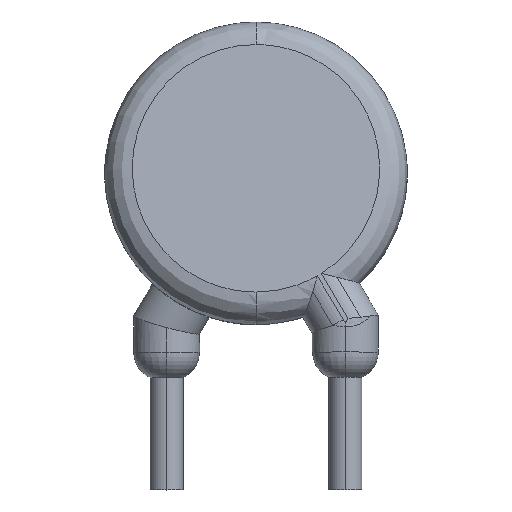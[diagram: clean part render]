
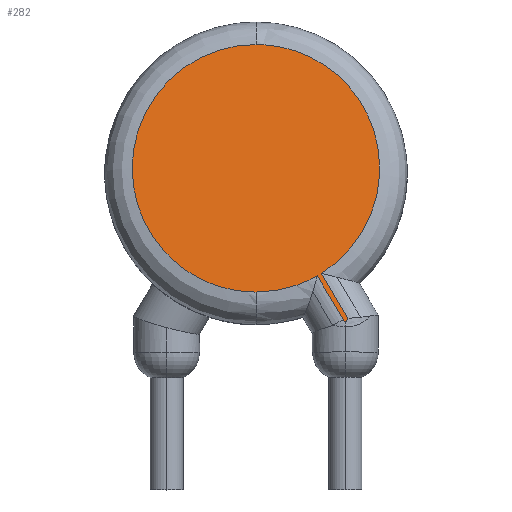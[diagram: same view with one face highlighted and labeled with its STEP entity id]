
A CAD part, top view. The second image highlights one B-rep face of the part: STEP entity #282.
In plain terms, the highlighted planar face has unit normal (0, 0.179, 0.984).
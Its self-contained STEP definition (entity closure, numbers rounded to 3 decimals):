
#51 = VERTEX_POINT ( 'NONE', #441 ) ;
#54 = EDGE_CURVE ( 'NONE', #51, #63, #499, .T. ) ;
#63 = VERTEX_POINT ( 'NONE', #450 ) ;
#162 = ORIENTED_EDGE ( 'NONE', *, *, #163, .T. ) ;
#163 = EDGE_CURVE ( 'NONE', #232, #2186, #806, .T. ) ;
#195 = ORIENTED_EDGE ( 'NONE', *, *, #54, .T. ) ;
#196 = EDGE_CURVE ( 'NONE', #63, #232, #804, .T. ) ;
#223 = EDGE_LOOP ( 'NONE', ( #250, #195, #300, #162, #261, #262, #263 ) ) ;
#232 = VERTEX_POINT ( 'NONE', #1005 ) ;
#250 = ORIENTED_EDGE ( 'NONE', *, *, #301, .T. ) ;
#251 = VERTEX_POINT ( 'NONE', #1003 ) ;
#261 = ORIENTED_EDGE ( 'NONE', *, *, #2191, .T. ) ;
#262 = ORIENTED_EDGE ( 'NONE', *, *, #2109, .T. ) ;
#263 = ORIENTED_EDGE ( 'NONE', *, *, #287, .T. ) ;
#282 = ADVANCED_FACE ( 'NONE', ( #1260 ), #1342, .F. ) ;
#287 = EDGE_CURVE ( 'NONE', #2110, #251, #1277, .T. ) ;
#300 = ORIENTED_EDGE ( 'NONE', *, *, #196, .T. ) ;
#301 = EDGE_CURVE ( 'NONE', #251, #51, #1344, .T. ) ;
#441 = CARTESIAN_POINT ( 'NONE',  ( 1.625, 1.044, 2.492 ) ) ;
#450 = CARTESIAN_POINT ( 'NONE',  ( 1.672, 1.11, 2.48 ) ) ;
#495 = CARTESIAN_POINT ( 'NONE',  ( 1.672, 1.11, 2.48 ) ) ;
#496 = CARTESIAN_POINT ( 'NONE',  ( 1.657, 1.067, 2.488 ) ) ;
#497 = CARTESIAN_POINT ( 'NONE',  ( 1.641, 1.044, 2.492 ) ) ;
#498 = CARTESIAN_POINT ( 'NONE',  ( 1.625, 1.044, 2.492 ) ) ;
#499 =( BOUNDED_CURVE ( )  B_SPLINE_CURVE ( 3, ( #498, #497, #496, #495 ),
 .UNSPECIFIED., .F., .T. ) 
 B_SPLINE_CURVE_WITH_KNOTS ( ( 4, 4 ),
 ( 0., 0.492 ),
 .UNSPECIFIED. ) 
 CURVE ( )  GEOMETRIC_REPRESENTATION_ITEM ( )  RATIONAL_B_SPLINE_CURVE ( ( 1., 0.98, 0.98, 1. ) ) 
 REPRESENTATION_ITEM ( '' )  );
#733 = CARTESIAN_POINT ( 'NONE',  ( 0., 6.089, 1.575 ) ) ;
#734 = CARTESIAN_POINT ( 'NONE',  ( 2.793, 6.089, 1.575 ) ) ;
#735 = CARTESIAN_POINT ( 'NONE',  ( 3.56, 3.404, 2.063 ) ) ;
#801 = DIRECTION ( 'NONE',  ( -0.503, 0.851, -0.155 ) ) ;
#802 = VECTOR ( 'NONE', #801, 1000. ) ;
#803 = CARTESIAN_POINT ( 'NONE',  ( 1.479, 1.436, 2.421 ) ) ;
#804 = LINE ( 'NONE', #803, #802 ) ;
#806 =( BOUNDED_CURVE ( )  B_SPLINE_CURVE ( 3, ( #815, #735, #734, #733 ),
 .UNSPECIFIED., .F., .T. ) 
 B_SPLINE_CURVE_WITH_KNOTS ( ( 4, 4 ),
 ( 3.698, 6.283 ),
 .UNSPECIFIED. ) 
 CURVE ( )  GEOMETRIC_REPRESENTATION_ITEM ( )  RATIONAL_B_SPLINE_CURVE ( ( 1., 0.516, 0.516, 1. ) ) 
 REPRESENTATION_ITEM ( '' )  );
#815 = CARTESIAN_POINT ( 'NONE',  ( 1.188, 1.929, 2.331 ) ) ;
#1003 = CARTESIAN_POINT ( 'NONE',  ( 1.586, 1.087, 2.484 ) ) ;
#1005 = CARTESIAN_POINT ( 'NONE',  ( 1.188, 1.929, 2.331 ) ) ;
#1260 = FACE_OUTER_BOUND ( 'NONE', #223, .T. ) ;
#1264 = CARTESIAN_POINT ( 'NONE',  ( 1.625, 1.044, 2.492 ) ) ;
#1265 = CARTESIAN_POINT ( 'NONE',  ( 1.612, 1.044, 2.492 ) ) ;
#1266 = CARTESIAN_POINT ( 'NONE',  ( 1.599, 1.059, 2.489 ) ) ;
#1267 = CARTESIAN_POINT ( 'NONE',  ( 1.586, 1.087, 2.484 ) ) ;
#1277 = LINE ( 'NONE', #1325, #1324 ) ;
#1299 = DIRECTION ( 'NONE',  ( 0., 0.984, -0.179 ) ) ;
#1321 = CARTESIAN_POINT ( 'NONE',  ( -2.75, 6.5, 1.5 ) ) ;
#1322 = AXIS2_PLACEMENT_3D ( 'NONE', #1321, #1341, #1299 ) ;
#1324 = VECTOR ( 'NONE', #1327, 1000. ) ;
#1325 = CARTESIAN_POINT ( 'NONE',  ( 1.602, 1.06, 2.489 ) ) ;
#1327 = DIRECTION ( 'NONE',  ( 0.503, -0.851, 0.155 ) ) ;
#1341 = DIRECTION ( 'NONE',  ( 0., -0.179, -0.984 ) ) ;
#1342 = PLANE ( 'NONE',  #1322 ) ;
#1344 =( BOUNDED_CURVE ( )  B_SPLINE_CURVE ( 3, ( #1267, #1266, #1265, #1264 ),
 .UNSPECIFIED., .F., .T. ) 
 B_SPLINE_CURVE_WITH_KNOTS ( ( 4, 4 ),
 ( 5.888, 6.283 ),
 .UNSPECIFIED. ) 
 CURVE ( )  GEOMETRIC_REPRESENTATION_ITEM ( )  RATIONAL_B_SPLINE_CURVE ( ( 1., 0.987, 0.987, 1. ) ) 
 REPRESENTATION_ITEM ( '' )  );
#1377 = CARTESIAN_POINT ( 'NONE',  ( 1.115, 1.885, 2.339 ) ) ;
#1393 = CARTESIAN_POINT ( 'NONE',  ( 0., 1.589, 2.393 ) ) ;
#1400 = CARTESIAN_POINT ( 'NONE',  ( 0.393, 1.589, 2.393 ) ) ;
#1401 = CARTESIAN_POINT ( 'NONE',  ( 0., 1.589, 2.393 ) ) ;
#1406 = CARTESIAN_POINT ( 'NONE',  ( 1.115, 1.885, 2.339 ) ) ;
#1407 = CARTESIAN_POINT ( 'NONE',  ( 0.773, 1.69, 2.375 ) ) ;
#1411 =( BOUNDED_CURVE ( )  B_SPLINE_CURVE ( 3, ( #1401, #1400, #1407, #1406 ),
 .UNSPECIFIED., .F., .T. ) 
 B_SPLINE_CURVE_WITH_KNOTS ( ( 4, 4 ),
 ( 3.142, 3.66 ),
 .UNSPECIFIED. ) 
 CURVE ( )  GEOMETRIC_REPRESENTATION_ITEM ( )  RATIONAL_B_SPLINE_CURVE ( ( 1., 0.978, 0.978, 1. ) ) 
 REPRESENTATION_ITEM ( '' )  );
#1924 = CARTESIAN_POINT ( 'NONE',  ( 0., 6.089, 1.575 ) ) ;
#1989 = CARTESIAN_POINT ( 'NONE',  ( 0., 1.589, 2.393 ) ) ;
#1990 = CARTESIAN_POINT ( 'NONE',  ( -4.5, 1.589, 2.393 ) ) ;
#1991 = CARTESIAN_POINT ( 'NONE',  ( -4.5, 6.089, 1.575 ) ) ;
#1992 = CARTESIAN_POINT ( 'NONE',  ( 0., 6.089, 1.575 ) ) ;
#2013 =( BOUNDED_CURVE ( )  B_SPLINE_CURVE ( 3, ( #1992, #1991, #1990, #1989 ),
 .UNSPECIFIED., .F., .T. ) 
 B_SPLINE_CURVE_WITH_KNOTS ( ( 4, 4 ),
 ( 0., 3.142 ),
 .UNSPECIFIED. ) 
 CURVE ( )  GEOMETRIC_REPRESENTATION_ITEM ( )  RATIONAL_B_SPLINE_CURVE ( ( 1., 0.333, 0.333, 1. ) ) 
 REPRESENTATION_ITEM ( '' )  );
#2109 = EDGE_CURVE ( 'NONE', #2111, #2110, #1411, .T. ) ;
#2110 = VERTEX_POINT ( 'NONE', #1377 ) ;
#2111 = VERTEX_POINT ( 'NONE', #1393 ) ;
#2186 = VERTEX_POINT ( 'NONE', #1924 ) ;
#2191 = EDGE_CURVE ( 'NONE', #2186, #2111, #2013, .T. ) ;
